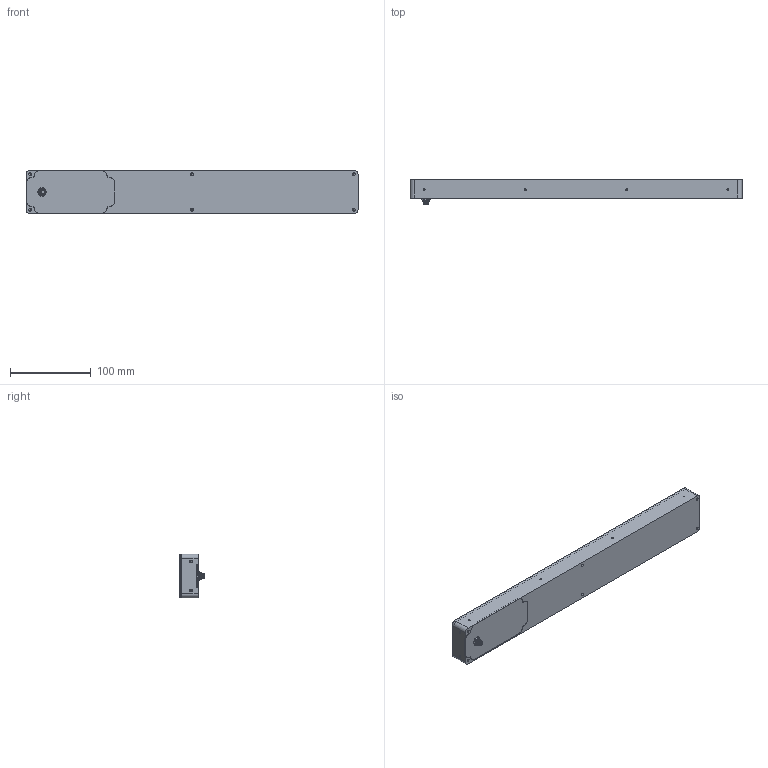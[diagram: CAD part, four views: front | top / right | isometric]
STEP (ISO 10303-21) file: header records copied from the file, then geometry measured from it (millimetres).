
FILE_DESCRIPTION (( 'STEP AP214' ), '1' );
FILE_NAME ('03032.00 Basisbaugruppe WBL-0440.STEP', '2022-03-21T15:02:37', ( '' ), ( '' ), 'SwSTEP 2.0', 'SolidWorks 2013', '' );
FILE_SCHEMA (( 'AUTOMOTIVE_DESIGN' ));
Length unit declared in the file: millimetre
Products named in the file (6): 00222.00 Einbaustecker M8x0,5, 4-pol; 03031.00 Deckscheibe WBL-0440 (klar, mit Blende); 03033.00 Gehäuse WBL-0440 ; 00699.00 Mutter M8x0,5; 02995.00 Steckerblech SAL-09xx (M8-Stecker); 03032.00 Basisbaugruppe WBL-0440
Assembly tree (5 placements, depth 2):
  03032.00 Basisbaugruppe WBL-0440
    03033.00 Gehäuse WBL-0440 
    03031.00 Deckscheibe WBL-0440 (klar, mit Blende)
    00222.00 Einbaustecker M8x0,5, 4-pol
    00699.00 Mutter M8x0,5
    02995.00 Steckerblech SAL-09xx (M8-Stecker)
Bounding box: 410 x 30.8 x 54 mm (x, y, z)
Volume: 312887.4 mm3; surface area: 143615.5 mm2
Topology: 6 solids, 6 shells, 402 faces, 1060 edges, 668 vertices
Faces by surface type: cylinder 180, plane 154, cone 60, bspline 8
Entity records: 14818 total; most frequent: CARTESIAN_POINT 3004, DIRECTION 2160, ORIENTED_EDGE 2048, EDGE_CURVE 1024, AXIS2_PLACEMENT_3D 785, VERTEX_POINT 668, LINE 590, VECTOR 590
